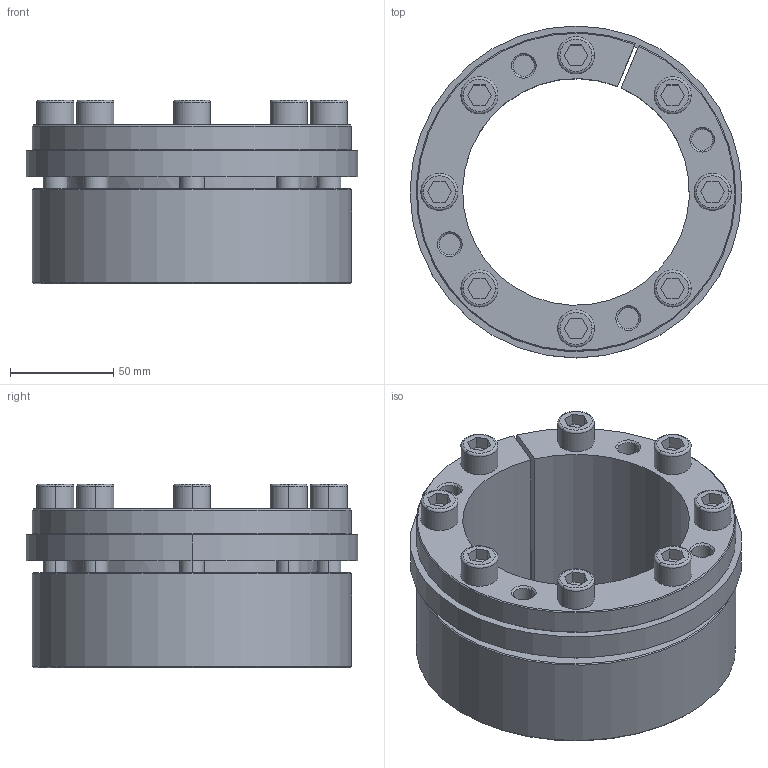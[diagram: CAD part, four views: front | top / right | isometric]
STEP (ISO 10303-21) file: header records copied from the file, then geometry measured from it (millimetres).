
FILE_DESCRIPTION((''),'2;1');
FILE_NAME('398-015-0110','2024-02-16T',('Brieden'),('Brieden'),'PRO/ENGINEER BY PARAMETRIC TECHNOLOGY CORPORATION, 2010160','PRO/ENGINEER BY PARAMETRIC TECHNOLOGY CORPORATION, 2010160','');
FILE_SCHEMA(('AUTOMOTIVE_DESIGN { 1 0 10303 214 1 1 1 1 }'));
Length unit declared in the file: millimetre
Products named in the file (1): 398-015-0110
Bounding box: 161 x 161 x 89 mm (x, y, z)
Volume: 703202.2 mm3; surface area: 176494 mm2
Topology: 2 solids, 2 shells, 235 faces, 621 edges, 394 vertices
Faces by surface type: plane 100, cylinder 80, cone 39, torus 16
Entity records: 10563 total; most frequent: CARTESIAN_POINT 2319, DIRECTION 1356, ORIENTED_EDGE 1242, PRESENTATION_STYLE_ASSIGNMENT 643, STYLED_ITEM 623, CURVE_STYLE 621, EDGE_CURVE 621, AXIS2_PLACEMENT_3D 541
